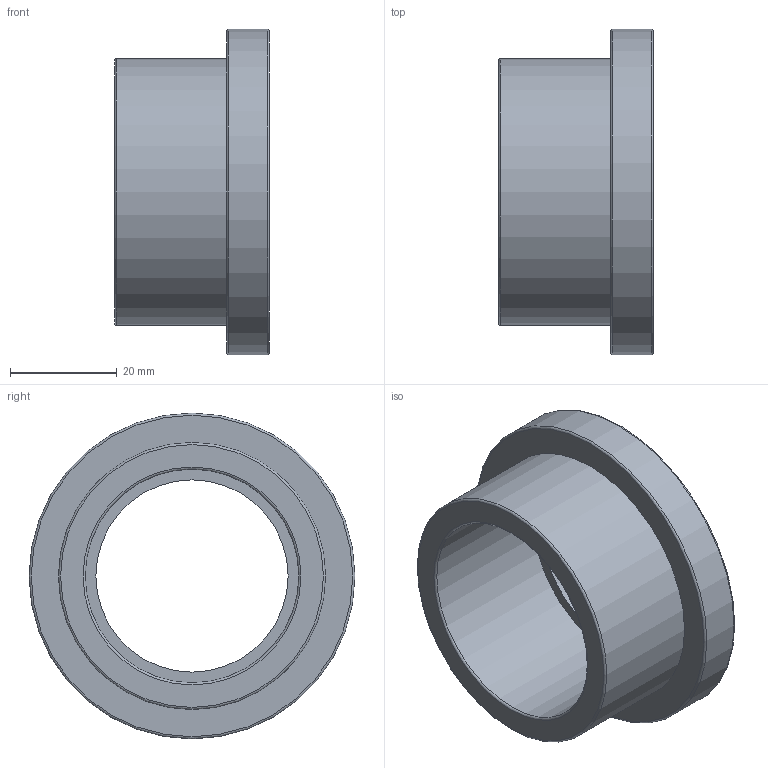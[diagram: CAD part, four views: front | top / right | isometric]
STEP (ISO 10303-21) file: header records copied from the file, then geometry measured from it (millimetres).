
FILE_DESCRIPTION(/* description */ ('PLASSON FLANGE FLAT AD.-CEM 40'),/* implementation_level */ '2;1');
FILE_NAME(/* name */ 'C:\Dropbox\KIMPROJECTS-Inventor\99-16-3568-Processing\PVC Catalog 2017\26_09_18\055100\055100040.ipt.stp',/* time_stamp */ '2018-09-27T11:50:44+03:00',/* author */ ('KIM'),/* organization */ (''),/* preprocessor_version */ 'ST-DEVELOPER v15.6',/* originating_system */ 'Autodesk Inventor 2015',/* authorisation */ '');
FILE_SCHEMA (('AUTOMOTIVE_DESIGN { 1 0 10303 214 3 1 1 }'));
Length unit declared in the file: millimetre
Products named in the file (1): 055100040
Bounding box: 29 x 61 x 61 mm (x, y, z)
Volume: 28860.2 mm3; surface area: 12113.7 mm2
Topology: 1 solids, 1 shells, 13 faces, 22 edges, 13 vertices
Faces by surface type: torus 5, cylinder 4, plane 4
Full cylindrical faces by diameter (mm): 36 x1, 40 x1, 50 x1, 61 x1
Entity records: 292 total; most frequent: DIRECTION 54, CARTESIAN_POINT 40, AXIS2_PLACEMENT_3D 27, EDGE_LOOP 26, ORIENTED_EDGE 26, FACE_BOUND 13, FACE_OUTER_BOUND 13, CIRCLE 13
